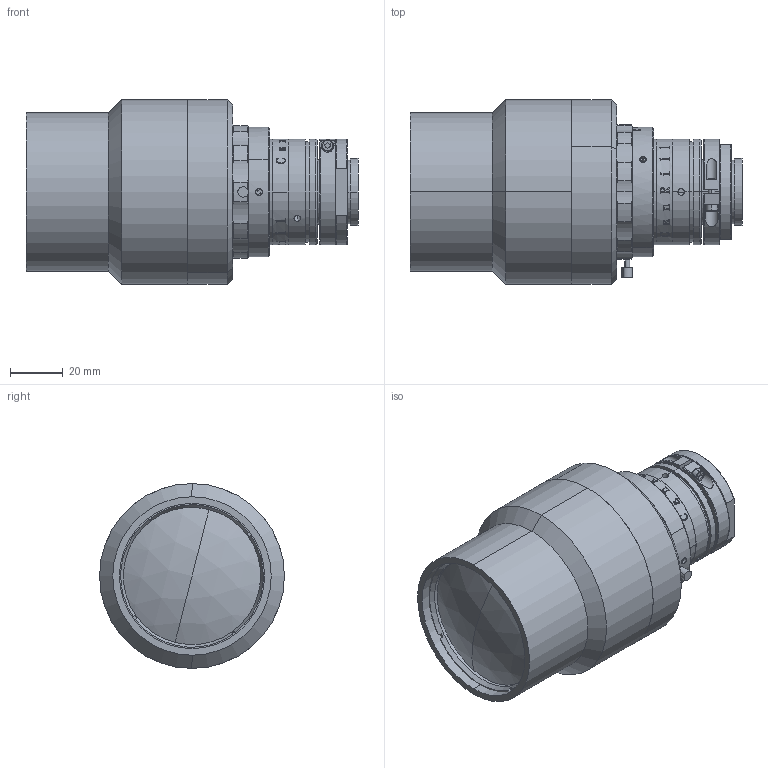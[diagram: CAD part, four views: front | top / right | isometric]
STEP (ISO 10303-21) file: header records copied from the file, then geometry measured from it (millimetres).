
FILE_DESCRIPTION (( 'STEP AP203' ), '1' );
FILE_NAME ('XF-PTL03711-C-VI.STEP', '2019-05-27T05:35:25', ( 'canrill005' ), ( '' ), 'SwSTEP 2.0', 'SolidWorks 2014', '' );
FILE_SCHEMA (( 'CONFIG_CONTROL_DESIGN' ));
Length unit declared in the file: millimetre
Products named in the file (2): XF-PTL03711-C-VI
Bounding box: 125.74 x 70 x 70 mm (x, y, z)
Surface area: 43168.8 mm2 (no closed solid volume)
Topology: 0 solids, 38 shells, 236 faces, 1224 edges, 1025 vertices
Faces by surface type: cylinder 111, plane 70, cone 32, torus 10, bspline 9, sphere 4
Entity records: 20663 total; most frequent: CARTESIAN_POINT 11515, DIRECTION 1716, ORIENTED_EDGE 1647, EDGE_CURVE 1224, VERTEX_POINT 1025, AXIS2_PLACEMENT_3D 672, CIRCLE 443, B_SPLINE_CURVE_WITH_KNOTS 409
